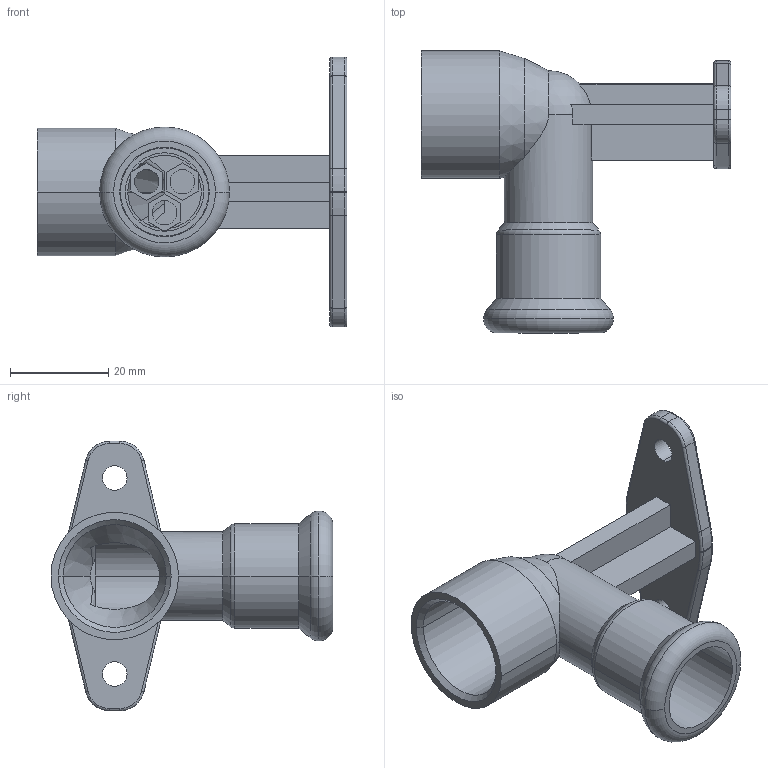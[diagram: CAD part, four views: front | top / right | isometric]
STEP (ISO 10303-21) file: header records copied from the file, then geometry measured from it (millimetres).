
FILE_DESCRIPTION(('OneSpaceDesigner STEP Export'),'2;1');
FILE_NAME('R2737 18xRp1-2.stp','2010-06-10T14:11:16',(''),(''),'OneSpace Designer STEP processor for AP214 (Solid Model)','OneSpace Modeling 15.00A 14-Mar-2007 (C) CoCreate Software GmbH','');
FILE_SCHEMA(('AUTOMOTIVE_DESIGN { 1 0 10303 214 1 1 1 1 }'));
Length unit declared in the file: millimetre
Products named in the file (2): R2737_18xRp1-2
Assembly tree (1 placements, depth 2):
  R2737_18xRp1-2
    R2737_18xRp1-2
Bounding box: 63.2 x 57.5 x 55 mm (x, y, z)
Volume: 15141.9 mm3; surface area: 13117.4 mm2
Topology: 1 solids, 1 shells, 146 faces, 359 edges, 221 vertices
Faces by surface type: plane 56, cylinder 53, torus 22, cone 12, bspline 2, sphere 1
Entity records: 5704 total; most frequent: CARTESIAN_POINT 2345, ORIENTED_EDGE 716, DIRECTION 669, EDGE_CURVE 358, AXIS2_PLACEMENT_3D 243, VERTEX_POINT 221, VECTOR 183, LINE 183
